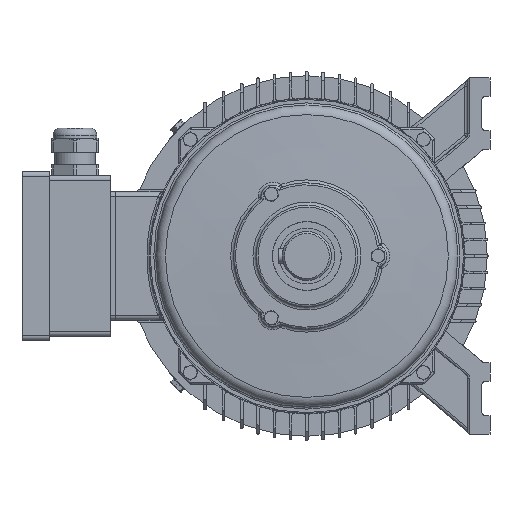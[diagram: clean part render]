
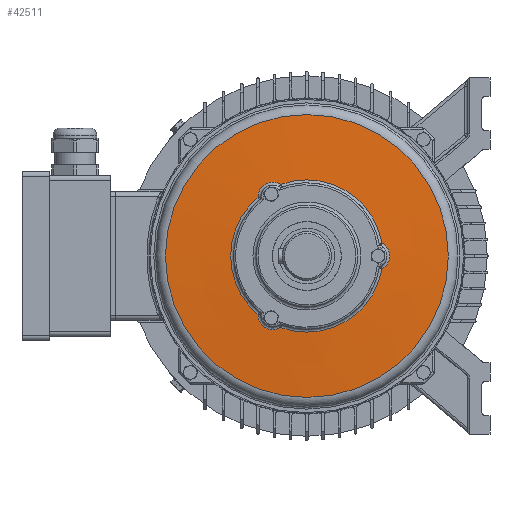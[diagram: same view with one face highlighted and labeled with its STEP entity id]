
A CAD part, left-side view. The second image highlights one B-rep face of the part: STEP entity #42511.
In plain terms, the highlighted conical face has half-angle 87 degrees and reference radius 110.25 mm.
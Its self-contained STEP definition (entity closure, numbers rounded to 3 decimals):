
#587=CONICAL_SURFACE('',#45597,110.25,87.);
#11017=FACE_BOUND('',#16767,.T.);
#11813=CIRCLE('',#45594,74.843);
#11816=CIRCLE('',#45598,139.023);
#11817=CIRCLE('',#45599,74.843);
#11818=CIRCLE('',#45600,74.843);
#14094=FACE_OUTER_BOUND('',#16766,.T.);
#16766=EDGE_LOOP('',(#37108));
#16767=EDGE_LOOP('',(#37109,#37110,#37111,#37112,#37113,#37114));
#17130=B_SPLINE_CURVE_WITH_KNOTS('',3,(#71407,#71408,#71409,#71410,#71411,
#71412,#71413,#71414,#71415),.UNSPECIFIED.,.F.,.F.,(4,1,1,1,1,1,4),(-3.136,
-2.688,-2.24,-1.792,-1.344,
-0.448,0.),.UNSPECIFIED.);
#17132=B_SPLINE_CURVE_WITH_KNOTS('',3,(#71450,#71451,#71452,#71453,#71454,
#71455,#71456,#71457,#71458,#71459),.UNSPECIFIED.,.F.,.F.,(4,1,1,1,1,1,
1,4),(-3.136,-2.688,-2.24,-1.792,
-1.344,-0.896,-0.448,0.),
 .UNSPECIFIED.);
#17133=B_SPLINE_CURVE_WITH_KNOTS('',3,(#71462,#71463,#71464,#71465,#71466,
#71467,#71468,#71469,#71470,#71471),.UNSPECIFIED.,.F.,.F.,(4,1,1,1,1,1,
1,4),(-3.136,-2.688,-2.24,-1.792,
-1.344,-0.896,-0.448,0.),
 .UNSPECIFIED.);
#20672=VERTEX_POINT('',#71404);
#20673=VERTEX_POINT('',#71406);
#20677=VERTEX_POINT('',#71439);
#20679=VERTEX_POINT('',#71445);
#20680=VERTEX_POINT('',#71447);
#20681=VERTEX_POINT('',#71449);
#20682=VERTEX_POINT('',#71460);
#26178=EDGE_CURVE('',#20672,#20673,#17130,.T.);
#26187=EDGE_CURVE('',#20673,#20677,#11813,.T.);
#26190=EDGE_CURVE('',#20679,#20679,#11816,.T.);
#26191=EDGE_CURVE('',#20680,#20672,#11817,.T.);
#26192=EDGE_CURVE('',#20681,#20680,#17132,.T.);
#26193=EDGE_CURVE('',#20682,#20681,#11818,.T.);
#26194=EDGE_CURVE('',#20677,#20682,#17133,.T.);
#37108=ORIENTED_EDGE('',*,*,#26190,.F.);
#37109=ORIENTED_EDGE('',*,*,#26178,.F.);
#37110=ORIENTED_EDGE('',*,*,#26191,.F.);
#37111=ORIENTED_EDGE('',*,*,#26192,.F.);
#37112=ORIENTED_EDGE('',*,*,#26193,.F.);
#37113=ORIENTED_EDGE('',*,*,#26194,.F.);
#37114=ORIENTED_EDGE('',*,*,#26187,.F.);
#42511=ADVANCED_FACE('',(#14094,#11017),#587,.T.);
#45594=AXIS2_PLACEMENT_3D('',#71440,#55769,#55770);
#45597=AXIS2_PLACEMENT_3D('',#71444,#55775,#55776);
#45598=AXIS2_PLACEMENT_3D('',#71446,#55777,#55778);
#45599=AXIS2_PLACEMENT_3D('',#71448,#55779,#55780);
#45600=AXIS2_PLACEMENT_3D('',#71461,#55781,#55782);
#55769=DIRECTION('center_axis',(-1.,0.,0.));
#55770=DIRECTION('ref_axis',(0.,-1.,0.));
#55775=DIRECTION('center_axis',(1.,0.,0.));
#55776=DIRECTION('ref_axis',(0.,1.,0.));
#55777=DIRECTION('center_axis',(1.,0.,0.));
#55778=DIRECTION('ref_axis',(0.,-1.,0.));
#55779=DIRECTION('center_axis',(-1.,0.,0.));
#55780=DIRECTION('ref_axis',(0.,-1.,0.));
#55781=DIRECTION('center_axis',(-1.,0.,0.));
#55782=DIRECTION('ref_axis',(0.,-1.,0.));
#71404=CARTESIAN_POINT('',(136.149,47.992,-57.431));
#71406=CARTESIAN_POINT('',(136.149,25.741,-70.277));
#71407=CARTESIAN_POINT('Ctrl Pts',(136.149,47.992,-57.431));
#71408=CARTESIAN_POINT('Ctrl Pts',(136.211,48.041,-58.92));
#71409=CARTESIAN_POINT('Ctrl Pts',(136.321,47.676,-61.934));
#71410=CARTESIAN_POINT('Ctrl Pts',(136.437,45.794,-66.061));
#71411=CARTESIAN_POINT('Ctrl Pts',(136.497,42.727,-69.436));
#71412=CARTESIAN_POINT('Ctrl Pts',(136.498,37.478,-72.479));
#71413=CARTESIAN_POINT('Ctrl Pts',(136.378,31.212,-72.874));
#71414=CARTESIAN_POINT('Ctrl Pts',(136.211,27.006,-71.065));
#71415=CARTESIAN_POINT('Ctrl Pts',(136.149,25.741,-70.277));
#71439=CARTESIAN_POINT('',(136.149,-73.732,-12.847));
#71440=CARTESIAN_POINT('Origin',(136.149,0.,0.));
#71444=CARTESIAN_POINT('Origin',(138.005,0.,0.));
#71445=CARTESIAN_POINT('',(139.513,139.023,0.));
#71446=CARTESIAN_POINT('Origin',(139.513,0.,0.));
#71447=CARTESIAN_POINT('',(136.149,47.992,57.431));
#71448=CARTESIAN_POINT('Origin',(136.149,0.,0.));
#71449=CARTESIAN_POINT('',(136.149,25.741,70.277));
#71450=CARTESIAN_POINT('Ctrl Pts',(136.149,25.741,70.277));
#71451=CARTESIAN_POINT('Ctrl Pts',(136.211,27.006,71.065));
#71452=CARTESIAN_POINT('Ctrl Pts',(136.321,29.799,72.255));
#71453=CARTESIAN_POINT('Ctrl Pts',(136.437,34.312,72.688));
#71454=CARTESIAN_POINT('Ctrl Pts',(136.497,38.773,71.72));
#71455=CARTESIAN_POINT('Ctrl Pts',(136.497,42.71,69.451));
#71456=CARTESIAN_POINT('Ctrl Pts',(136.438,45.78,66.076));
#71457=CARTESIAN_POINT('Ctrl Pts',(136.322,47.673,61.953));
#71458=CARTESIAN_POINT('Ctrl Pts',(136.211,48.041,58.92));
#71459=CARTESIAN_POINT('Ctrl Pts',(136.149,47.992,57.431));
#71460=CARTESIAN_POINT('',(136.149,-73.732,12.847));
#71461=CARTESIAN_POINT('Origin',(136.149,0.,0.));
#71462=CARTESIAN_POINT('Ctrl Pts',(136.149,-73.732,-12.847));
#71463=CARTESIAN_POINT('Ctrl Pts',(136.211,-75.047,-12.145));
#71464=CARTESIAN_POINT('Ctrl Pts',(136.321,-77.475,-10.321));
#71465=CARTESIAN_POINT('Ctrl Pts',(136.437,-80.106,-6.629));
#71466=CARTESIAN_POINT('Ctrl Pts',(136.497,-81.498,-2.281));
#71467=CARTESIAN_POINT('Ctrl Pts',(136.497,-81.501,2.262));
#71468=CARTESIAN_POINT('Ctrl Pts',(136.438,-80.114,6.608));
#71469=CARTESIAN_POINT('Ctrl Pts',(136.322,-77.489,10.31));
#71470=CARTESIAN_POINT('Ctrl Pts',(136.211,-75.047,12.145));
#71471=CARTESIAN_POINT('Ctrl Pts',(136.149,-73.732,12.847));
